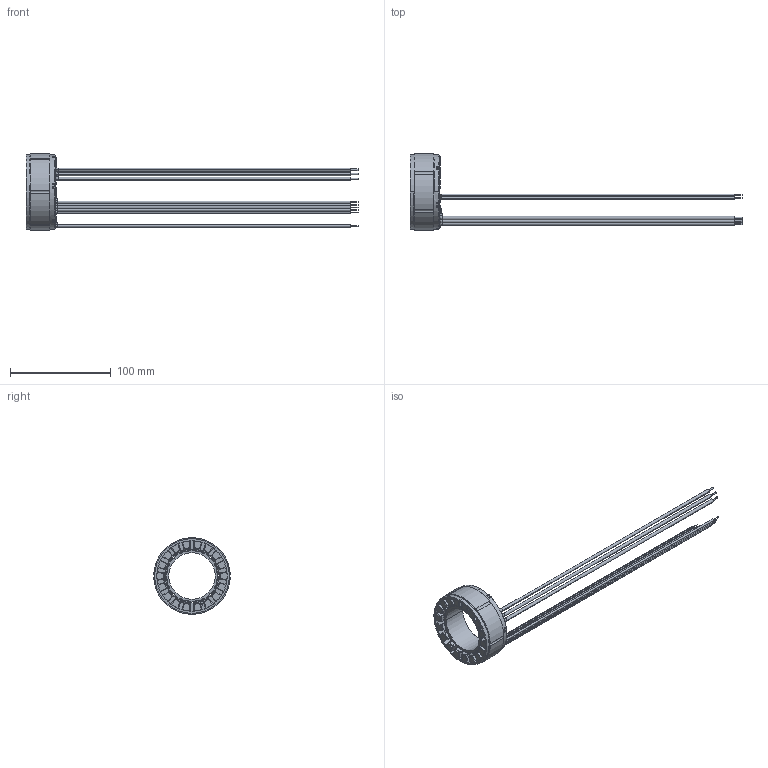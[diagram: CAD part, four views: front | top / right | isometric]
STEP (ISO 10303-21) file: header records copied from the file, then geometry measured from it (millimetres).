
FILE_DESCRIPTION((''),'2;1');
FILE_NAME('12570083_SW0001','2026-04-22T13:30:32',('MMKMJISU'),(''),'CREO PARAMETRIC BY PTC INC, 2022484','CREO PARAMETRIC BY PTC INC, 2022484','');
FILE_SCHEMA(('CONFIG_CONTROL_DESIGN','SHAPE_APPEARANCE_LAYERS_GROUPS'));
Products named in the file (1): 12570083_SW0001
Bounding box: 329.16 x 75.94 x 76 mm (x, y, z)
Volume: 67786.4 mm3; surface area: 68220.6 mm2
Topology: 2 solids, 2 shells, 2964 faces, 8240 edges, 5191 vertices
Faces by surface type: plane 1422, cylinder 992, bspline 292, torus 254, revolution 2, sphere 2
Entity records: 141613 total; most frequent: CARTESIAN_POINT 57972, ORIENTED_EDGE 16476, DIRECTION 15030, EDGE_CURVE 8238, AXIS2_PLACEMENT_3D 5357, VERTEX_POINT 5191, VECTOR 4314, LINE 4314
